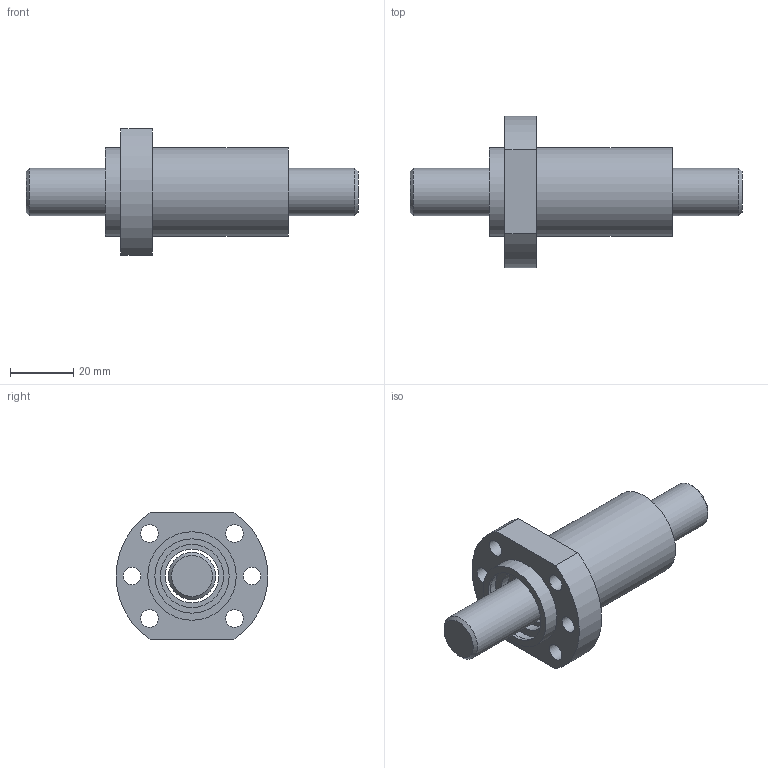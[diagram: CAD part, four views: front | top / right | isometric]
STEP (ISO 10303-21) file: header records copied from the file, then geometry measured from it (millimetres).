
FILE_DESCRIPTION(/* description */ (''),/* implementation_level */ '2;1');
FILE_NAME(/* name */ 'SFH1620.stp',/* time_stamp */ '2016-07-18T16:50:23+08:00',/* author */ (''),/* organization */ (''),/* preprocessor_version */ 'ST-DEVELOPER v11',/* originating_system */ 'SIEMENS UGS NX 6.0',/* authorisation */ '');
FILE_SCHEMA (('CONFIG_CONTROL_DESIGN'));
Length unit declared in the file: millimetre
Products named in the file (1): fannCD57hkov
Bounding box: 105 x 48 x 40 mm (x, y, z)
Volume: 44923.1 mm3; surface area: 18410.8 mm2
Topology: 2 solids, 2 shells, 34 faces, 66 edges, 44 vertices
Faces by surface type: cylinder 18, plane 14, cone 2
Full cylindrical faces by diameter (mm): 5.5 x6, 15 x1, 17 x1, 20 x2, 23.5 x2, 25 x2, 28 x2
Entity records: 892 total; most frequent: DIRECTION 154, CARTESIAN_POINT 123, ORIENTED_EDGE 92, EDGE_LOOP 74, AXIS2_PLACEMENT_3D 73, FACE_BOUND 68, EDGE_CURVE 46, VERTEX_POINT 42
